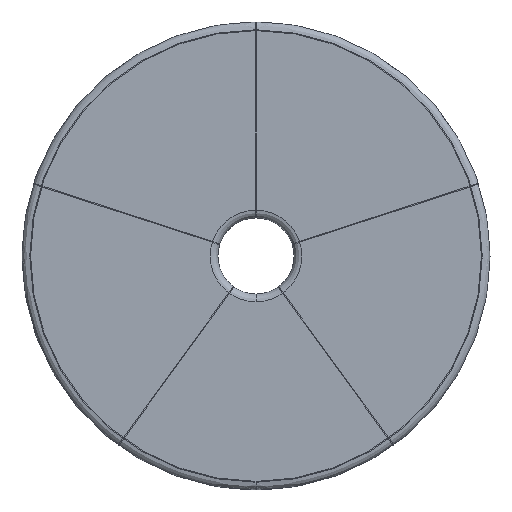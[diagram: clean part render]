
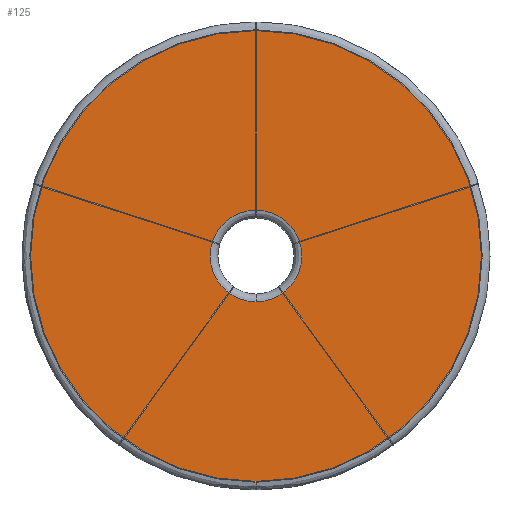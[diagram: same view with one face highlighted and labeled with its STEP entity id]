
A CAD part, top view. The second image highlights one B-rep face of the part: STEP entity #125.
In plain terms, the highlighted planar face has unit normal (0, 0, 1) as drawn and (0, 1, 0) by its records, which use the part's own axes.
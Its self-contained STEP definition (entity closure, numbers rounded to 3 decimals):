
#16=FACE_BOUND('',#479,.T.);
#125=ADVANCED_FACE('',(#301,#16),#2591,.T.);
#301=FACE_OUTER_BOUND('',#478,.T.);
#478=EDGE_LOOP('',(#764,#765));
#479=EDGE_LOOP('',(#766,#767));
#764=ORIENTED_EDGE('',*,*,#1425,.T.);
#765=ORIENTED_EDGE('',*,*,#1414,.F.);
#766=ORIENTED_EDGE('',*,*,#1422,.T.);
#767=ORIENTED_EDGE('',*,*,#1419,.F.);
#1414=EDGE_CURVE('',#2314,#2315,#1740,.T.);
#1419=EDGE_CURVE('',#2320,#2321,#1745,.T.);
#1422=EDGE_CURVE('',#2320,#2321,#1748,.T.);
#1425=EDGE_CURVE('',#2314,#2315,#1751,.T.);
#1740=TRIMMED_CURVE($,#1938,(#4620),(#4621),.T.,.CARTESIAN.);
#1745=TRIMMED_CURVE($,#1943,(#4635),(#4636),.T.,.CARTESIAN.);
#1748=TRIMMED_CURVE($,#1946,(#4644),(#4645),.T.,.CARTESIAN.);
#1751=TRIMMED_CURVE($,#1949,(#4653),(#4654),.T.,.CARTESIAN.);
#1938=CIRCLE('',#2885,580.);
#1943=CIRCLE('',#2890,117.5);
#1946=CIRCLE('',#2893,117.5);
#1949=CIRCLE('',#2896,580.);
#2314=VERTEX_POINT('',#4593);
#2315=VERTEX_POINT('',#4594);
#2320=VERTEX_POINT('',#4599);
#2321=VERTEX_POINT('',#4600);
#2591=PLANE('',#2878);
#2878=AXIS2_PLACEMENT_3D('',#4264,#3254,$);
#2885=AXIS2_PLACEMENT_3D($,#4619,#3267,#3268);
#2890=AXIS2_PLACEMENT_3D($,#4634,#3277,#3278);
#2893=AXIS2_PLACEMENT_3D($,#4643,#3283,#3284);
#2896=AXIS2_PLACEMENT_3D($,#4652,#3289,#3290);
#3254=DIRECTION('',(0.,1.,0.));
#3267=DIRECTION('',(0.,-1.,0.));
#3268=DIRECTION('',(0.,0.,-1.));
#3277=DIRECTION('',(0.,1.,0.));
#3278=DIRECTION('',(0.,0.,1.));
#3283=DIRECTION('',(0.,-1.,0.));
#3284=DIRECTION('',(0.,0.,1.));
#3289=DIRECTION('',(0.,1.,0.));
#3290=DIRECTION('',(0.,0.,-1.));
#4264=CARTESIAN_POINT('',(-696.,0.,-696.));
#4593=CARTESIAN_POINT('',(0.,0.,-580.));
#4594=CARTESIAN_POINT('',(0.,0.,580.));
#4599=CARTESIAN_POINT('',(0.,0.,117.5));
#4600=CARTESIAN_POINT('',(0.,0.,-117.5));
#4619=CARTESIAN_POINT('',(0.,0.,0.));
#4620=CARTESIAN_POINT('',(0.,0.,-580.));
#4621=CARTESIAN_POINT('',(0.,0.,580.));
#4634=CARTESIAN_POINT('',(0.,0.,0.));
#4635=CARTESIAN_POINT('',(0.,0.,117.5));
#4636=CARTESIAN_POINT('',(0.,0.,-117.5));
#4643=CARTESIAN_POINT('',(0.,0.,0.));
#4644=CARTESIAN_POINT('',(0.,0.,117.5));
#4645=CARTESIAN_POINT('',(0.,0.,-117.5));
#4652=CARTESIAN_POINT('',(0.,0.,0.));
#4653=CARTESIAN_POINT('',(0.,0.,-580.));
#4654=CARTESIAN_POINT('',(0.,0.,580.));
